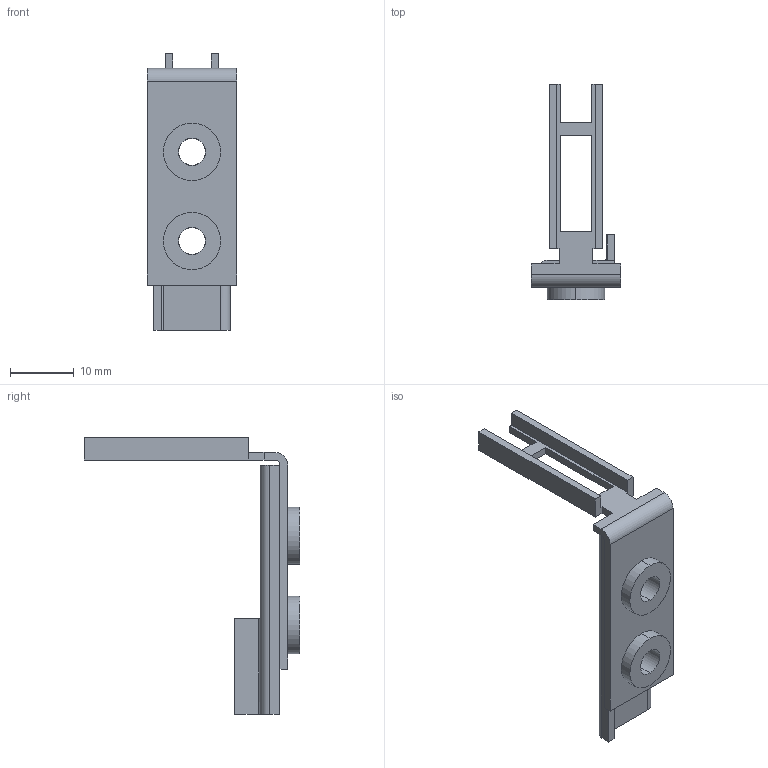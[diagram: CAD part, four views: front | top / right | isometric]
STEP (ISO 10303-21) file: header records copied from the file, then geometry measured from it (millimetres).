
FILE_DESCRIPTION (( 'STEP AP203' ), '1' );
FILE_NAME ('sg-k12a.STEP', '2013-07-23T06:47:53', ( ' ' ), ( ' ' ), 'SwSTEP 2.0', 'SolidWorks 2010', '' );
FILE_SCHEMA (( 'CONFIG_CONTROL_DESIGN' ));
Length unit declared in the file: millimetre
Products named in the file (1): sg-k12a
Bounding box: 14 x 33.8 x 43.4 mm (x, y, z)
Volume: 1885 mm3; surface area: 3113.5 mm2
Topology: 1 solids, 1 shells, 73 faces, 196 edges, 129 vertices
Faces by surface type: plane 49, cylinder 24
Entity records: 2381 total; most frequent: CARTESIAN_POINT 407, DIRECTION 396, ORIENTED_EDGE 392, EDGE_CURVE 196, LINE 140, VECTOR 140, VERTEX_POINT 129, AXIS2_PLACEMENT_3D 128
